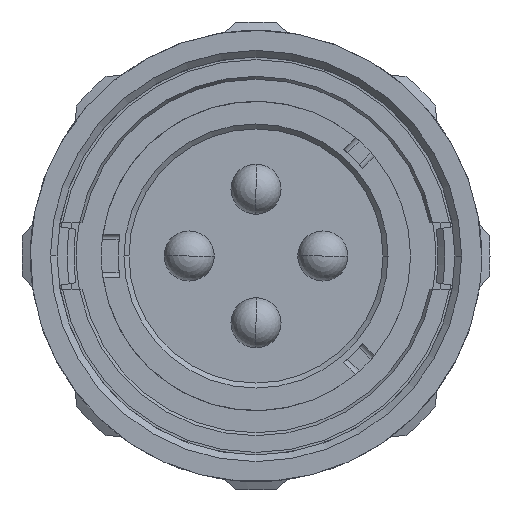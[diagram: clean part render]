
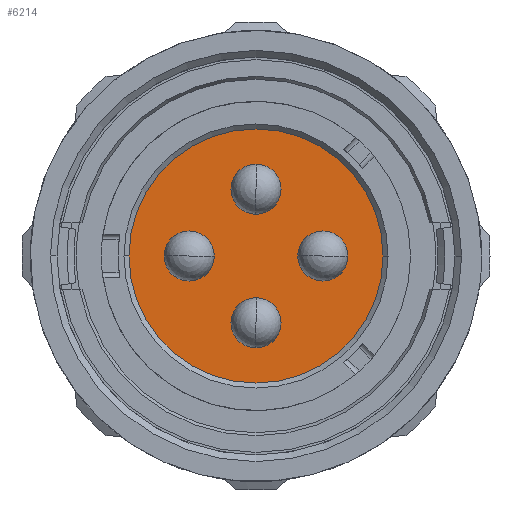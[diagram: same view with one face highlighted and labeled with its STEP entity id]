
A CAD part, left-side view. The second image highlights one B-rep face of the part: STEP entity #6214.
In plain terms, the highlighted planar face has unit normal (-1, 0, 0).
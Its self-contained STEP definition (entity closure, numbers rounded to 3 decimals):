
#29=CARTESIAN_POINT('',(14.2,0.,0.));
#30=DIRECTION('',(1.,0.,0.));
#31=DIRECTION('',(0.,1.,0.));
#32=AXIS2_PLACEMENT_3D('',#29,#30,#31);
#34=CARTESIAN_POINT('',(14.2,0.,0.));
#35=DIRECTION('',(1.,0.,0.));
#36=DIRECTION('',(0.,-1.,0.));
#37=AXIS2_PLACEMENT_3D('',#34,#35,#36);
#39=CARTESIAN_POINT('',(14.2,-4.,0.));
#40=DIRECTION('',(-1.,0.,0.));
#41=DIRECTION('',(0.,-1.,0.));
#42=AXIS2_PLACEMENT_3D('',#39,#40,#41);
#44=CARTESIAN_POINT('',(14.2,-4.,0.));
#45=DIRECTION('',(-1.,0.,0.));
#46=DIRECTION('',(0.,1.,0.));
#47=AXIS2_PLACEMENT_3D('',#44,#45,#46);
#49=CARTESIAN_POINT('',(14.2,0.,-4.));
#50=DIRECTION('',(-1.,0.,0.));
#51=DIRECTION('',(0.,0.,-1.));
#52=AXIS2_PLACEMENT_3D('',#49,#50,#51);
#54=CARTESIAN_POINT('',(14.2,0.,-4.));
#55=DIRECTION('',(-1.,0.,0.));
#56=DIRECTION('',(0.,0.,1.));
#57=AXIS2_PLACEMENT_3D('',#54,#55,#56);
#59=CARTESIAN_POINT('',(14.2,4.,0.));
#60=DIRECTION('',(-1.,0.,0.));
#61=DIRECTION('',(0.,1.,0.));
#62=AXIS2_PLACEMENT_3D('',#59,#60,#61);
#64=CARTESIAN_POINT('',(14.2,4.,0.));
#65=DIRECTION('',(-1.,0.,0.));
#66=DIRECTION('',(0.,-1.,0.));
#67=AXIS2_PLACEMENT_3D('',#64,#65,#66);
#69=CARTESIAN_POINT('',(14.2,0.,4.));
#70=DIRECTION('',(-1.,0.,0.));
#71=DIRECTION('',(0.,0.,1.));
#72=AXIS2_PLACEMENT_3D('',#69,#70,#71);
#74=CARTESIAN_POINT('',(14.2,0.,4.));
#75=DIRECTION('',(-1.,0.,0.));
#76=DIRECTION('',(0.,0.,-1.));
#77=AXIS2_PLACEMENT_3D('',#74,#75,#76);
#6021=CARTESIAN_POINT('',(14.2,7.6,0.));
#6022=CARTESIAN_POINT('',(14.2,-7.6,0.));
#6023=VERTEX_POINT('',#6021);
#6024=VERTEX_POINT('',#6022);
#6025=CARTESIAN_POINT('',(14.2,-5.5,0.));
#6026=CARTESIAN_POINT('',(14.2,-2.5,0.));
#6027=VERTEX_POINT('',#6025);
#6028=VERTEX_POINT('',#6026);
#6029=CARTESIAN_POINT('',(14.2,0.,-5.5));
#6030=CARTESIAN_POINT('',(14.2,0.,-2.5));
#6031=VERTEX_POINT('',#6029);
#6032=VERTEX_POINT('',#6030);
#6033=CARTESIAN_POINT('',(14.2,5.5,0.));
#6034=CARTESIAN_POINT('',(14.2,2.5,0.));
#6035=VERTEX_POINT('',#6033);
#6036=VERTEX_POINT('',#6034);
#6037=CARTESIAN_POINT('',(14.2,0.,5.5));
#6038=CARTESIAN_POINT('',(14.2,0.,2.5));
#6039=VERTEX_POINT('',#6037);
#6040=VERTEX_POINT('',#6038);
#6181=CARTESIAN_POINT('',(14.2,0.,0.));
#6182=DIRECTION('',(1.,0.,0.));
#6183=DIRECTION('',(0.,1.,0.));
#6184=AXIS2_PLACEMENT_3D('',#6181,#6182,#6183);
#6185=PLANE('',#6184);
#6187=ORIENTED_EDGE('',*,*,#6186,.T.);
#6189=ORIENTED_EDGE('',*,*,#6188,.T.);
#6190=EDGE_LOOP('',(#6187,#6189));
#6191=FACE_OUTER_BOUND('',#6190,.F.);
#6193=ORIENTED_EDGE('',*,*,#6192,.T.);
#6195=ORIENTED_EDGE('',*,*,#6194,.T.);
#6196=EDGE_LOOP('',(#6193,#6195));
#6197=FACE_BOUND('',#6196,.F.);
#6199=ORIENTED_EDGE('',*,*,#6198,.T.);
#6201=ORIENTED_EDGE('',*,*,#6200,.T.);
#6202=EDGE_LOOP('',(#6199,#6201));
#6203=FACE_BOUND('',#6202,.F.);
#6205=ORIENTED_EDGE('',*,*,#6204,.T.);
#6207=ORIENTED_EDGE('',*,*,#6206,.T.);
#6208=EDGE_LOOP('',(#6205,#6207));
#6209=FACE_BOUND('',#6208,.F.);
#6210=ORIENTED_EDGE('',*,*,#6164,.T.);
#6211=ORIENTED_EDGE('',*,*,#6149,.T.);
#6212=EDGE_LOOP('',(#6210,#6211));
#6213=FACE_BOUND('',#6212,.F.);
#33=CIRCLE('',#32,7.6);
#38=CIRCLE('',#37,7.6);
#43=CIRCLE('',#42,1.5);
#48=CIRCLE('',#47,1.5);
#53=CIRCLE('',#52,1.5);
#58=CIRCLE('',#57,1.5);
#63=CIRCLE('',#62,1.5);
#68=CIRCLE('',#67,1.5);
#73=CIRCLE('',#72,1.5);
#78=CIRCLE('',#77,1.5);
#6149=EDGE_CURVE('',#6040,#6039,#78,.T.);
#6164=EDGE_CURVE('',#6039,#6040,#73,.T.);
#6186=EDGE_CURVE('',#6023,#6024,#33,.T.);
#6188=EDGE_CURVE('',#6024,#6023,#38,.T.);
#6192=EDGE_CURVE('',#6027,#6028,#43,.T.);
#6194=EDGE_CURVE('',#6028,#6027,#48,.T.);
#6198=EDGE_CURVE('',#6031,#6032,#53,.T.);
#6200=EDGE_CURVE('',#6032,#6031,#58,.T.);
#6204=EDGE_CURVE('',#6035,#6036,#63,.T.);
#6206=EDGE_CURVE('',#6036,#6035,#68,.T.);
#6214=ADVANCED_FACE('',(#6191,#6197,#6203,#6209,#6213),#6185,.F.);
